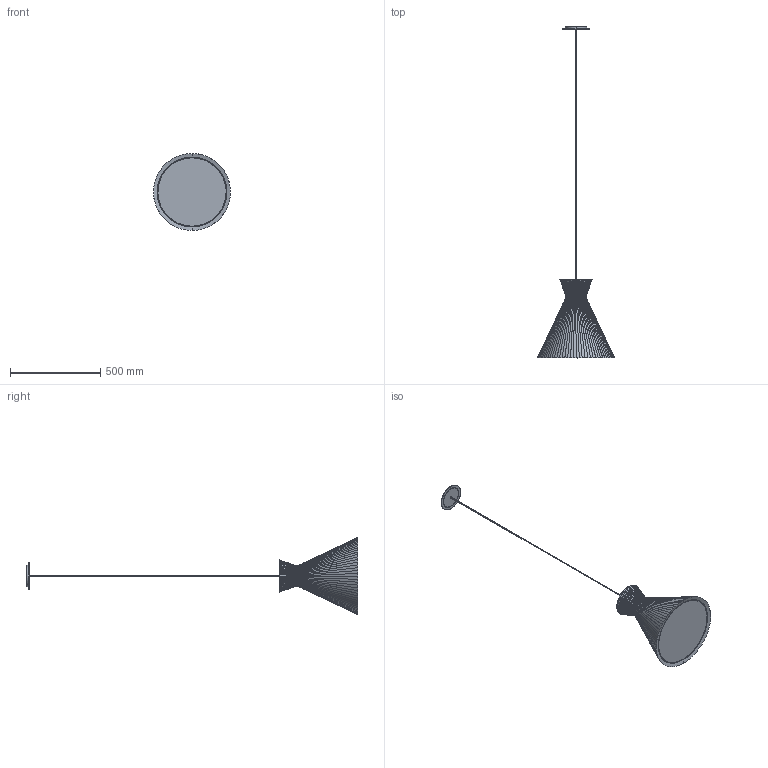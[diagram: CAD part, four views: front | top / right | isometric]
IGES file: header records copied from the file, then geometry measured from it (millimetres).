
Start section: SolidWorks IGES file using analytic representation for surfaces
Global section: file name: C:\Users\libre2.DOMINIO\Desktop\CARPYEN\3D\NAHTRANG\mandarina\mandarina 43\mandarina 43.IGS; native system: SolidWorks 2014; preprocessor: SolidWorks 2014; author: libre2; date: 160907.093012; units: millimetre
Bounding box: 425.65 x 1834.47 x 425.64 mm (x, y, z)
Surface area: 1064252.8 mm2 (no closed solid volume)
Topology: 0 solids, 0 shells, 602 faces, 7620 edges, 7620 vertices
Faces by surface type: bspline 458, revolution 144
